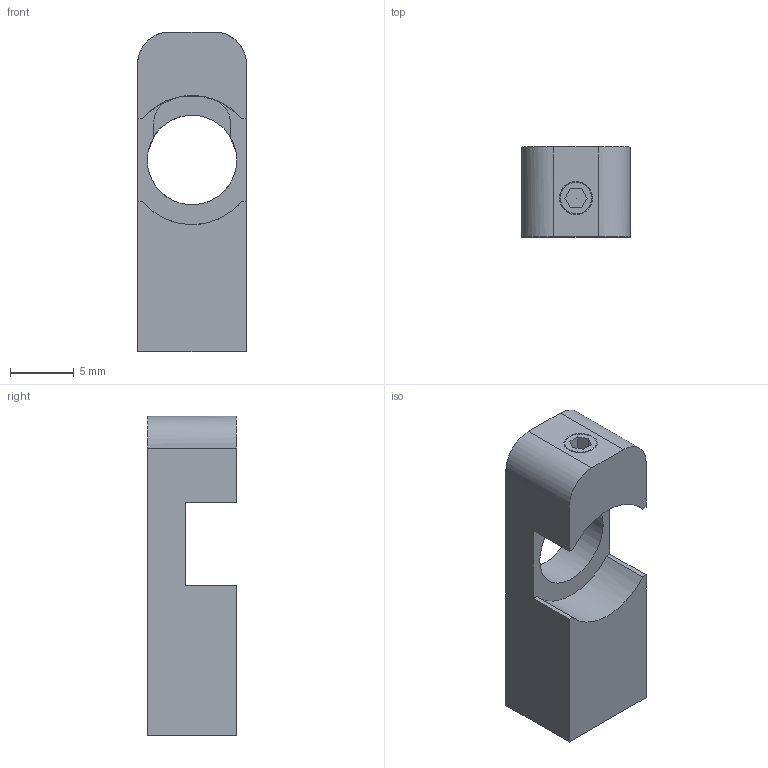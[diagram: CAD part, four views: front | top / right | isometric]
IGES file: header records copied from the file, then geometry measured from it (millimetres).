
Global section: file name: TLH-10-Dri-N; native system: Autodesk Inventor 2014; preprocessor: unknown; author: e.nonaka; date: 20141021.112650; units: millimetre
Bounding box: 8.5 x 7 x 25 mm (x, y, z)
Volume: 981.5 mm3; surface area: 985 mm2
Topology: 1 solids, 2 shells, 39 faces, 103 edges, 71 vertices
Faces by surface type: bspline 39
